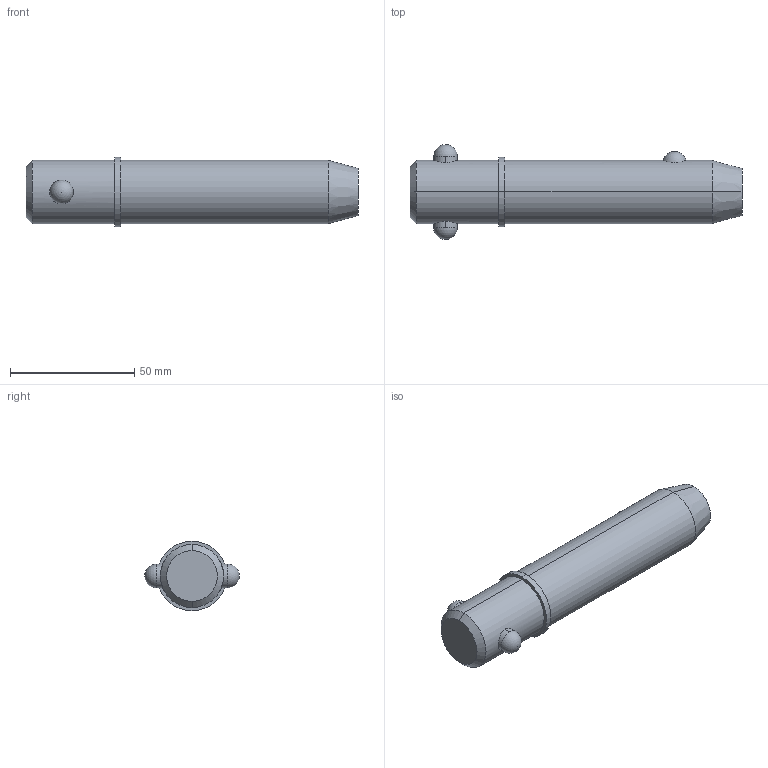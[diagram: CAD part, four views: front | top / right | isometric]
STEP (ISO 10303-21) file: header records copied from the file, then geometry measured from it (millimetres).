
FILE_DESCRIPTION (( 'STEP AP203' ), '1' );
FILE_NAME ('33018.W1025.step', '2024-11-19T17:24:10', ( '' ), ( '' ), 'SwSTEP 2.0', 'SolidWorks 2019', '' );
FILE_SCHEMA (( 'CONFIG_CONTROL_DESIGN' ));
Length unit declared in the file: millimetre
Products named in the file (3): Part1_33018.W1025; 33018.W1025; Part2_33018.W1025
Assembly tree (2 placements, depth 2):
  33018.W1025
    Part1_33018.W1025
    Part2_33018.W1025
Bounding box: 133.35 x 38.1 x 27.94 mm (x, y, z)
Volume: 67094.9 mm3; surface area: 13226.1 mm2
Topology: 2 solids, 2 shells, 22 faces, 47 edges, 30 vertices
Faces by surface type: cylinder 10, sphere 4, cone 4, plane 4
Entity records: 1071 total; most frequent: CARTESIAN_POINT 314, DIRECTION 110, ORIENTED_EDGE 82, AXIS2_PLACEMENT_3D 48, EDGE_CURVE 41, EDGE_LOOP 27, PERSON_AND_ORGANIZATION 26, VERTEX_POINT 26
